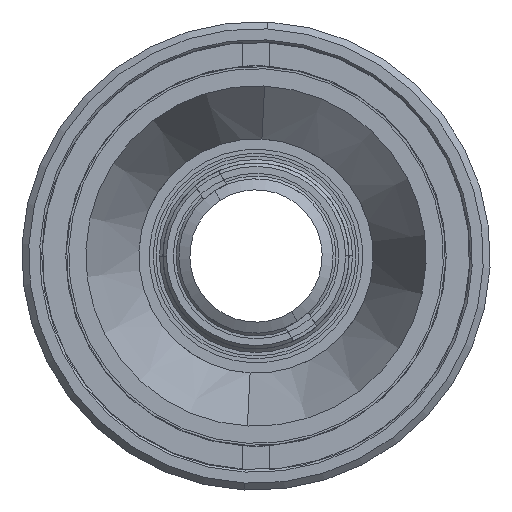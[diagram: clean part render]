
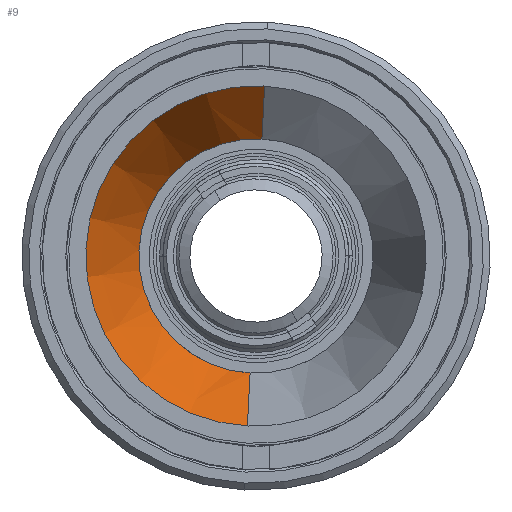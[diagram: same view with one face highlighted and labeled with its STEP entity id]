
A CAD part, left-side view. The second image highlights one B-rep face of the part: STEP entity #9.
In plain terms, the highlighted conical face has half-angle 25 degrees and reference radius 8.5 mm.
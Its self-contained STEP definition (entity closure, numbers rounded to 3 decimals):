
#9 = ADVANCED_FACE ( 'NONE', ( #1287 ), #1206, .T. ) ;
#119 = AXIS2_PLACEMENT_3D ( 'NONE', #2102, #2101, #2100 ) ;
#371 = LINE ( 'NONE', #2665, #400 ) ;
#400 = VECTOR ( 'NONE', #2669, 1000. ) ;
#442 = EDGE_CURVE ( 'NONE', #1729, #1726, #790, .T. ) ;
#525 = EDGE_CURVE ( 'NONE', #1726, #1000, #1387, .T. ) ;
#574 = AXIS2_PLACEMENT_3D ( 'NONE', #2255, #2260, #2258 ) ;
#610 = EDGE_CURVE ( 'NONE', #1767, #1000, #1043, .T. ) ;
#664 = EDGE_CURVE ( 'NONE', #1729, #1767, #371, .T. ) ;
#732 = AXIS2_PLACEMENT_3D ( 'NONE', #2172, #2225, #2223 ) ;
#790 = CIRCLE ( 'NONE', #574, 8.5 ) ;
#861 = ORIENTED_EDGE ( 'NONE', *, *, #610, .F. ) ;
#1000 = VERTEX_POINT ( 'NONE', #3052 ) ;
#1043 = CIRCLE ( 'NONE', #119, 17. ) ;
#1147 = ORIENTED_EDGE ( 'NONE', *, *, #664, .F. ) ;
#1206 = CONICAL_SURFACE ( 'NONE', #732, 8.5, 0.436 ) ;
#1287 = FACE_OUTER_BOUND ( 'NONE', #1469, .T. ) ;
#1387 = LINE ( 'NONE', #1899, #1400 ) ;
#1388 = ORIENTED_EDGE ( 'NONE', *, *, #442, .T. ) ;
#1400 = VECTOR ( 'NONE', #1916, 1000. ) ;
#1469 = EDGE_LOOP ( 'NONE', ( #1388, #1492, #861, #1147 ) ) ;
#1492 = ORIENTED_EDGE ( 'NONE', *, *, #525, .T. ) ;
#1726 = VERTEX_POINT ( 'NONE', #2965 ) ;
#1729 = VERTEX_POINT ( 'NONE', #2977 ) ;
#1767 = VERTEX_POINT ( 'NONE', #2943 ) ;
#1899 = CARTESIAN_POINT ( 'NONE',  ( 23.643, -2.135, -8.489 ) ) ;
#1916 = DIRECTION ( 'NONE',  ( -0.906, 0.021, -0.422 ) ) ;
#2100 = DIRECTION ( 'NONE',  ( 0., -0.051, 0.999 ) ) ;
#2101 = DIRECTION ( 'NONE',  ( -1., 0., 0. ) ) ;
#2102 = CARTESIAN_POINT ( 'NONE',  ( 5.414, -2.566, 0. ) ) ;
#2172 = CARTESIAN_POINT ( 'NONE',  ( 23.643, -2.566, 0. ) ) ;
#2223 = DIRECTION ( 'NONE',  ( 0., -0.051, 0.999 ) ) ;
#2225 = DIRECTION ( 'NONE',  ( -1., 0., 0. ) ) ;
#2255 = CARTESIAN_POINT ( 'NONE',  ( 23.643, -2.566, 0. ) ) ;
#2258 = DIRECTION ( 'NONE',  ( 0., -0.051, 0.999 ) ) ;
#2260 = DIRECTION ( 'NONE',  ( -1., 0., 0. ) ) ;
#2665 = CARTESIAN_POINT ( 'NONE',  ( 23.643, -2.998, 8.489 ) ) ;
#2669 = DIRECTION ( 'NONE',  ( -0.906, -0.021, 0.422 ) ) ;
#2943 = CARTESIAN_POINT ( 'NONE',  ( 5.414, -3.429, 16.978 ) ) ;
#2965 = CARTESIAN_POINT ( 'NONE',  ( 23.643, -2.135, -8.489 ) ) ;
#2977 = CARTESIAN_POINT ( 'NONE',  ( 23.643, -2.998, 8.489 ) ) ;
#3052 = CARTESIAN_POINT ( 'NONE',  ( 5.414, -1.704, -16.978 ) ) ;
